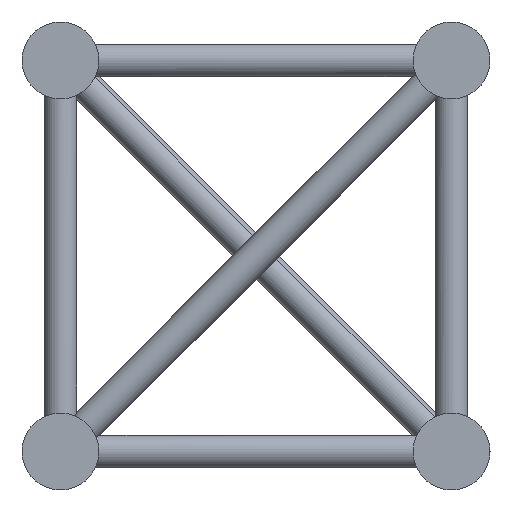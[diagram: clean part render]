
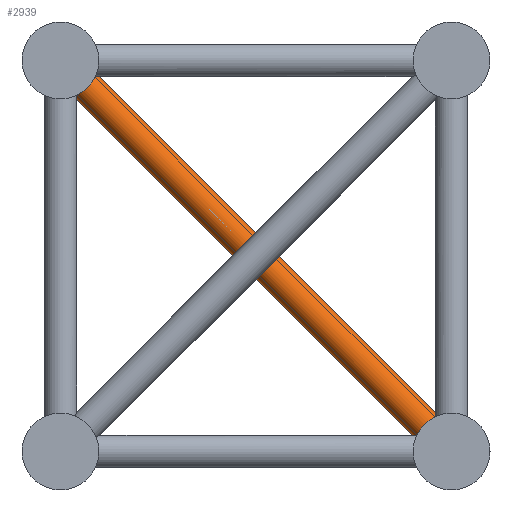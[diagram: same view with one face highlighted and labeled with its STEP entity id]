
A CAD part, left-side view. The second image highlights one B-rep face of the part: STEP entity #2939.
In plain terms, the highlighted cylindrical face has radius 12.5 mm (diameter 25 mm), a full revolution.
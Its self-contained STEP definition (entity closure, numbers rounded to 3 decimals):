
#182=FACE_BOUND('',#855,.T.);
#530=FACE_OUTER_BOUND('',#854,.T.);
#854=EDGE_LOOP('',(#2374,#2375));
#855=EDGE_LOOP('',(#2376,#2377,#2378,#2379));
#1060=CIRCLE('',#3236,12.5);
#1061=CIRCLE('',#3237,12.5);
#1062=CIRCLE('',#3238,12.5);
#1063=CIRCLE('',#3239,12.5);
#1151=B_SPLINE_CURVE_WITH_KNOTS('',3,(#6037,#6038,#6039,#6040,#6041,#6042),
 .UNSPECIFIED.,.F.,.F.,(4,2,4),(5.757,5.766,5.774),
 .UNSPECIFIED.);
#1153=B_SPLINE_CURVE_WITH_KNOTS('',3,(#6055,#6056,#6057,#6058,#6059,#6060),
 .UNSPECIFIED.,.F.,.F.,(4,2,4),(1.913,1.922,1.93),
 .UNSPECIFIED.);
#1267=VERTEX_POINT('',#4972);
#1270=VERTEX_POINT('',#4976);
#1322=VERTEX_POINT('',#6034);
#1323=VERTEX_POINT('',#6036);
#1326=VERTEX_POINT('',#6052);
#1327=VERTEX_POINT('',#6054);
#1577=EDGE_CURVE('',#1323,#1322,#1151,.T.);
#1581=EDGE_CURVE('',#1327,#1326,#1153,.T.);
#1744=EDGE_CURVE('',#1267,#1270,#1060,.T.);
#1745=EDGE_CURVE('',#1270,#1267,#1061,.T.);
#1746=EDGE_CURVE('',#1326,#1323,#1062,.T.);
#1747=EDGE_CURVE('',#1322,#1327,#1063,.T.);
#2374=ORIENTED_EDGE('',*,*,#1744,.T.);
#2375=ORIENTED_EDGE('',*,*,#1745,.T.);
#2376=ORIENTED_EDGE('',*,*,#1581,.T.);
#2377=ORIENTED_EDGE('',*,*,#1746,.T.);
#2378=ORIENTED_EDGE('',*,*,#1577,.T.);
#2379=ORIENTED_EDGE('',*,*,#1747,.T.);
#2612=CYLINDRICAL_SURFACE('',#3235,12.5);
#2939=ADVANCED_FACE('',(#530,#182),#2612,.T.);
#3235=AXIS2_PLACEMENT_3D('',#8092,#3855,#3856);
#3236=AXIS2_PLACEMENT_3D('',#8093,#3857,#3858);
#3237=AXIS2_PLACEMENT_3D('',#8094,#3859,#3860);
#3238=AXIS2_PLACEMENT_3D('',#8095,#3861,#3862);
#3239=AXIS2_PLACEMENT_3D('',#8096,#3863,#3864);
#3855=DIRECTION('center_axis',(0.,0.707,0.707));
#3856=DIRECTION('ref_axis',(-1.,0.,0.));
#3857=DIRECTION('center_axis',(0.,-0.707,
-0.707));
#3858=DIRECTION('ref_axis',(-1.,0.,0.));
#3859=DIRECTION('center_axis',(0.,-0.707,
-0.707));
#3860=DIRECTION('ref_axis',(-1.,0.,0.));
#3861=DIRECTION('center_axis',(0.,0.707,0.707));
#3862=DIRECTION('ref_axis',(-1.,0.,0.));
#3863=DIRECTION('center_axis',(0.,0.707,0.707));
#3864=DIRECTION('ref_axis',(-1.,0.,0.));
#4972=CARTESIAN_POINT('',(1262.5,281.322,-17.678));
#4976=CARTESIAN_POINT('',(1237.5,281.322,-17.678));
#6034=CARTESIAN_POINT('',(1262.5,17.738,-281.383));
#6036=CARTESIAN_POINT('',(1262.5,17.617,-281.262));
#6037=CARTESIAN_POINT('Ctrl Pts',(1262.5,17.617,-281.262));
#6038=CARTESIAN_POINT('Ctrl Pts',(1262.5,17.637,-281.282));
#6039=CARTESIAN_POINT('Ctrl Pts',(1262.5,17.658,-281.302));
#6040=CARTESIAN_POINT('Ctrl Pts',(1262.5,17.698,-281.342));
#6041=CARTESIAN_POINT('Ctrl Pts',(1262.5,17.718,-281.363));
#6042=CARTESIAN_POINT('Ctrl Pts',(1262.5,17.738,-281.383));
#6052=CARTESIAN_POINT('',(1237.5,17.617,-281.262));
#6054=CARTESIAN_POINT('',(1237.5,17.738,-281.383));
#6055=CARTESIAN_POINT('Ctrl Pts',(1237.5,17.738,-281.383));
#6056=CARTESIAN_POINT('Ctrl Pts',(1237.5,17.718,-281.363));
#6057=CARTESIAN_POINT('Ctrl Pts',(1237.5,17.698,-281.342));
#6058=CARTESIAN_POINT('Ctrl Pts',(1237.5,17.658,-281.302));
#6059=CARTESIAN_POINT('Ctrl Pts',(1237.5,17.637,-281.282));
#6060=CARTESIAN_POINT('Ctrl Pts',(1237.5,17.617,-281.262));
#8092=CARTESIAN_POINT('Origin',(1250.,149.5,-149.5));
#8093=CARTESIAN_POINT('Origin',(1250.,281.322,-17.678));
#8094=CARTESIAN_POINT('Origin',(1250.,281.322,-17.678));
#8095=CARTESIAN_POINT('Origin',(1250.,17.678,-281.322));
#8096=CARTESIAN_POINT('Origin',(1250.,17.678,-281.322));
